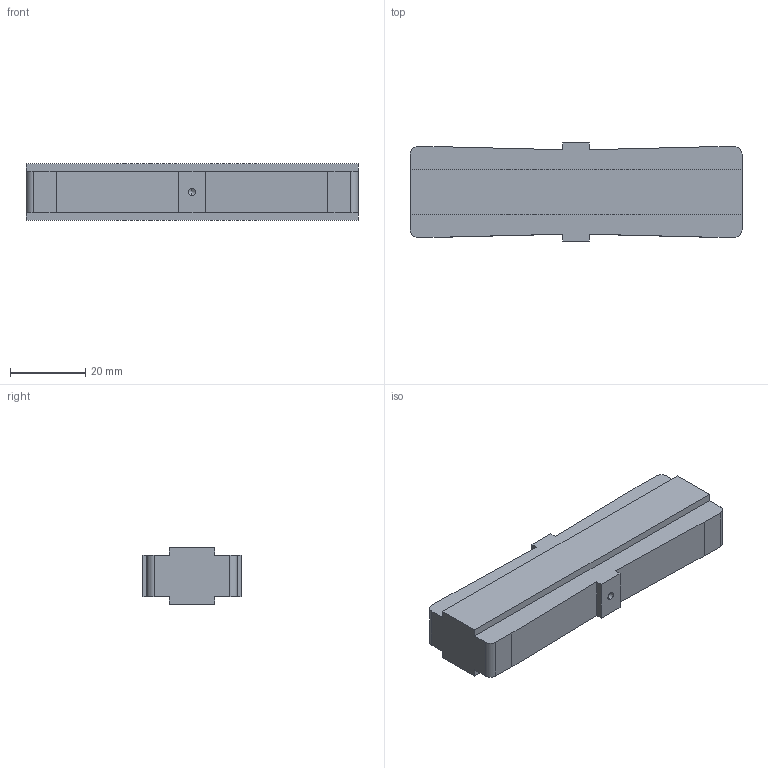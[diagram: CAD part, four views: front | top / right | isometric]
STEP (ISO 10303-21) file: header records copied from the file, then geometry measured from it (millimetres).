
FILE_DESCRIPTION (( 'STEP AP203' ), '1' );
FILE_NAME ('500R10K-B1三维外形尺寸图-2024.04.07.STEP', '2024-04-07T08:34:33', ( 'User' ), ( 'china' ), 'SwSTEP 2.0', 'SolidWorks 2016', '' );
FILE_SCHEMA (( 'CONFIG_CONTROL_DESIGN' ));
Length unit declared in the file: millimetre
Products named in the file (1): 500R10K-B1三维外形尺寸图-2024.04.07
Bounding box: 88 x 26 x 15 mm (x, y, z)
Volume: 26950.4 mm3; surface area: 7542.8 mm2
Topology: 1 solids, 1 shells, 38 faces, 104 edges, 66 vertices
Faces by surface type: plane 26, cylinder 8, cone 4
Entity records: 1241 total; most frequent: CARTESIAN_POINT 205, ORIENTED_EDGE 200, DIRECTION 194, EDGE_CURVE 100, VECTOR 84, LINE 84, VERTEX_POINT 66, AXIS2_PLACEMENT_3D 55
